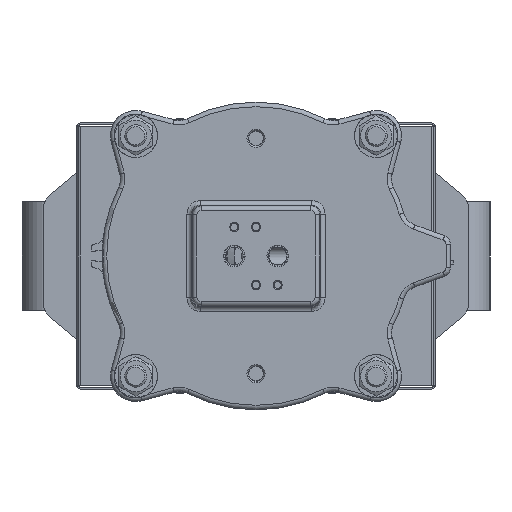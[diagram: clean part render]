
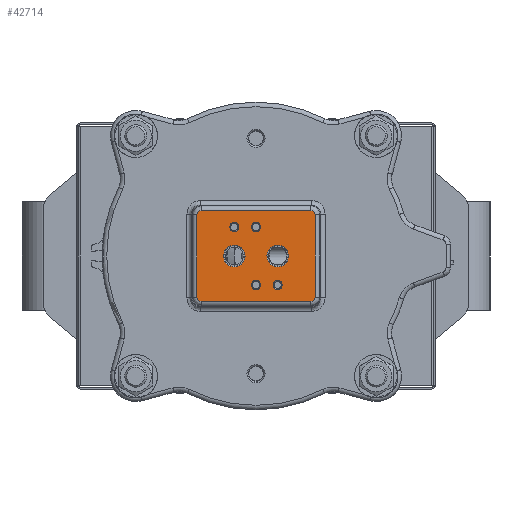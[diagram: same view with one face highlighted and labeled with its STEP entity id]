
A CAD part, left-side view. The second image highlights one B-rep face of the part: STEP entity #42714.
In plain terms, the highlighted planar face has unit normal (-1, 0, 0).
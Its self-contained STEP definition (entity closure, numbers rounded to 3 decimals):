
#454=ELLIPSE('',#46470,2.519,2.5);
#455=ELLIPSE('',#46474,2.519,2.5);
#456=ELLIPSE('',#46478,2.519,2.5);
#457=ELLIPSE('',#46481,2.519,2.5);
#2710=LINE('',#72219,#4912);
#2711=LINE('',#72252,#4913);
#2712=LINE('',#72284,#4914);
#2713=LINE('',#72316,#4915);
#4912=VECTOR('',#54862,10.);
#4913=VECTOR('',#54873,10.);
#4914=VECTOR('',#54882,10.);
#4915=VECTOR('',#54891,10.);
#7377=FACE_BOUND('',#11151,.T.);
#7378=FACE_BOUND('',#11152,.T.);
#7379=FACE_BOUND('',#11153,.T.);
#7380=FACE_BOUND('',#11154,.T.);
#7381=FACE_BOUND('',#11155,.T.);
#7382=FACE_BOUND('',#11156,.T.);
#8548=FACE_OUTER_BOUND('',#11150,.T.);
#11150=EDGE_LOOP('',(#31206,#31207,#31208,#31209,#31210,#31211,#31212,#31213));
#11151=EDGE_LOOP('',(#31214));
#11152=EDGE_LOOP('',(#31215));
#11153=EDGE_LOOP('',(#31216));
#11154=EDGE_LOOP('',(#31217));
#11155=EDGE_LOOP('',(#31218));
#11156=EDGE_LOOP('',(#31219));
#14029=CIRCLE('',#46503,6.);
#14032=CIRCLE('',#46507,6.);
#14042=CIRCLE('',#46525,2.5);
#14046=CIRCLE('',#46531,2.5);
#14050=CIRCLE('',#46537,2.5);
#14053=CIRCLE('',#46542,2.5);
#17488=VERTEX_POINT('',#72216);
#17489=VERTEX_POINT('',#72218);
#17490=VERTEX_POINT('',#72246);
#17491=VERTEX_POINT('',#72250);
#17492=VERTEX_POINT('',#72278);
#17493=VERTEX_POINT('',#72282);
#17494=VERTEX_POINT('',#72310);
#17495=VERTEX_POINT('',#72314);
#17516=VERTEX_POINT('',#72413);
#17519=VERTEX_POINT('',#72421);
#17529=VERTEX_POINT('',#72453);
#17533=VERTEX_POINT('',#72465);
#17537=VERTEX_POINT('',#72477);
#17539=VERTEX_POINT('',#72486);
#22400=EDGE_CURVE('',#17488,#17489,#2710,.T.);
#22403=EDGE_CURVE('',#17490,#17488,#454,.T.);
#22405=EDGE_CURVE('',#17491,#17490,#2711,.T.);
#22407=EDGE_CURVE('',#17492,#17491,#455,.T.);
#22409=EDGE_CURVE('',#17493,#17492,#2712,.T.);
#22411=EDGE_CURVE('',#17494,#17493,#456,.T.);
#22413=EDGE_CURVE('',#17495,#17494,#2713,.T.);
#22414=EDGE_CURVE('',#17489,#17495,#457,.T.);
#22438=EDGE_CURVE('',#17516,#17516,#14029,.T.);
#22442=EDGE_CURVE('',#17519,#17519,#14032,.T.);
#22456=EDGE_CURVE('',#17529,#17529,#14042,.T.);
#22462=EDGE_CURVE('',#17533,#17533,#14046,.T.);
#22468=EDGE_CURVE('',#17537,#17537,#14050,.T.);
#22472=EDGE_CURVE('',#17539,#17539,#14053,.T.);
#31206=ORIENTED_EDGE('',*,*,#22414,.F.);
#31207=ORIENTED_EDGE('',*,*,#22400,.F.);
#31208=ORIENTED_EDGE('',*,*,#22403,.F.);
#31209=ORIENTED_EDGE('',*,*,#22405,.F.);
#31210=ORIENTED_EDGE('',*,*,#22407,.F.);
#31211=ORIENTED_EDGE('',*,*,#22409,.F.);
#31212=ORIENTED_EDGE('',*,*,#22411,.F.);
#31213=ORIENTED_EDGE('',*,*,#22413,.F.);
#31214=ORIENTED_EDGE('',*,*,#22468,.F.);
#31215=ORIENTED_EDGE('',*,*,#22456,.F.);
#31216=ORIENTED_EDGE('',*,*,#22438,.F.);
#31217=ORIENTED_EDGE('',*,*,#22442,.F.);
#31218=ORIENTED_EDGE('',*,*,#22462,.F.);
#31219=ORIENTED_EDGE('',*,*,#22472,.F.);
#39300=PLANE('',#46541);
#42714=ADVANCED_FACE('',(#8548,#7377,#7378,#7379,#7380,#7381,#7382),#39300,
 .F.);
#46470=AXIS2_PLACEMENT_3D('',#72248,#54867,#54868);
#46474=AXIS2_PLACEMENT_3D('',#72280,#54876,#54877);
#46478=AXIS2_PLACEMENT_3D('',#72312,#54885,#54886);
#46481=AXIS2_PLACEMENT_3D('',#72342,#54892,#54893);
#46503=AXIS2_PLACEMENT_3D('',#72415,#54942,#54943);
#46507=AXIS2_PLACEMENT_3D('',#72423,#54951,#54952);
#46525=AXIS2_PLACEMENT_3D('',#72455,#54991,#54992);
#46531=AXIS2_PLACEMENT_3D('',#72467,#55005,#55006);
#46537=AXIS2_PLACEMENT_3D('',#72479,#55019,#55020);
#46541=AXIS2_PLACEMENT_3D('',#72485,#55028,#55029);
#46542=AXIS2_PLACEMENT_3D('',#72487,#55030,#55031);
#54862=DIRECTION('',(0.,0.,-1.));
#54867=DIRECTION('center_axis',(1.,0.,0.));
#54868=DIRECTION('ref_axis',(0.,-0.707,0.707));
#54873=DIRECTION('',(0.,-1.,0.));
#54876=DIRECTION('center_axis',(1.,0.,0.));
#54877=DIRECTION('ref_axis',(0.,0.707,0.707));
#54882=DIRECTION('',(0.,0.,1.));
#54885=DIRECTION('center_axis',(1.,0.,0.));
#54886=DIRECTION('ref_axis',(0.,0.707,-0.707));
#54891=DIRECTION('',(0.,1.,0.));
#54892=DIRECTION('center_axis',(1.,0.,0.));
#54893=DIRECTION('ref_axis',(0.,-0.707,-0.707));
#54942=DIRECTION('center_axis',(-1.,0.,0.));
#54943=DIRECTION('ref_axis',(0.,1.,0.));
#54951=DIRECTION('center_axis',(-1.,0.,0.));
#54952=DIRECTION('ref_axis',(0.,1.,0.));
#54991=DIRECTION('center_axis',(-1.,0.,0.));
#54992=DIRECTION('ref_axis',(0.,1.,0.));
#55005=DIRECTION('center_axis',(-1.,0.,0.));
#55006=DIRECTION('ref_axis',(0.,1.,0.));
#55019=DIRECTION('center_axis',(-1.,0.,0.));
#55020=DIRECTION('ref_axis',(0.,1.,0.));
#55028=DIRECTION('center_axis',(1.,0.,0.));
#55029=DIRECTION('ref_axis',(0.,1.,0.));
#55030=DIRECTION('center_axis',(-1.,0.,0.));
#55031=DIRECTION('ref_axis',(0.,1.,0.));
#72216=CARTESIAN_POINT('',(-990.5,-32.709,-9.281));
#72218=CARTESIAN_POINT('',(-990.5,-32.709,-54.719));
#72219=CARTESIAN_POINT('',(-990.5,-32.709,-45.75));
#72246=CARTESIAN_POINT('',(-990.5,-30.219,-6.791));
#72248=CARTESIAN_POINT('Origin',(-990.5,-30.2,-9.3));
#72250=CARTESIAN_POINT('',(-990.5,30.219,-6.791));
#72252=CARTESIAN_POINT('',(-990.5,-17.5,-6.791));
#72278=CARTESIAN_POINT('',(-990.5,32.709,-9.281));
#72280=CARTESIAN_POINT('Origin',(-990.5,30.2,-9.3));
#72282=CARTESIAN_POINT('',(-990.5,32.709,-54.719));
#72284=CARTESIAN_POINT('',(-990.5,32.709,-18.25));
#72310=CARTESIAN_POINT('',(-990.5,30.219,-57.209));
#72312=CARTESIAN_POINT('Origin',(-990.5,30.2,-54.7));
#72314=CARTESIAN_POINT('',(-990.5,-30.219,-57.209));
#72316=CARTESIAN_POINT('',(-990.5,17.5,-57.209));
#72342=CARTESIAN_POINT('Origin',(-990.5,-30.2,-54.7));
#72413=CARTESIAN_POINT('',(-990.5,-18.,-32.));
#72415=CARTESIAN_POINT('Origin',(-990.5,-12.,-32.));
#72421=CARTESIAN_POINT('',(-990.5,6.,-32.));
#72423=CARTESIAN_POINT('Origin',(-990.5,12.,-32.));
#72453=CARTESIAN_POINT('',(-990.5,-14.5,-48.));
#72455=CARTESIAN_POINT('Origin',(-990.5,-12.,-48.));
#72465=CARTESIAN_POINT('',(-990.5,-2.5,-48.));
#72467=CARTESIAN_POINT('Origin',(-990.5,0.,
-48.));
#72477=CARTESIAN_POINT('',(-990.5,-2.5,-16.));
#72479=CARTESIAN_POINT('Origin',(-990.5,0.,
-16.));
#72485=CARTESIAN_POINT('Origin',(-990.5,0.,
-32.));
#72486=CARTESIAN_POINT('',(-990.5,9.5,-16.));
#72487=CARTESIAN_POINT('Origin',(-990.5,12.,-16.));
